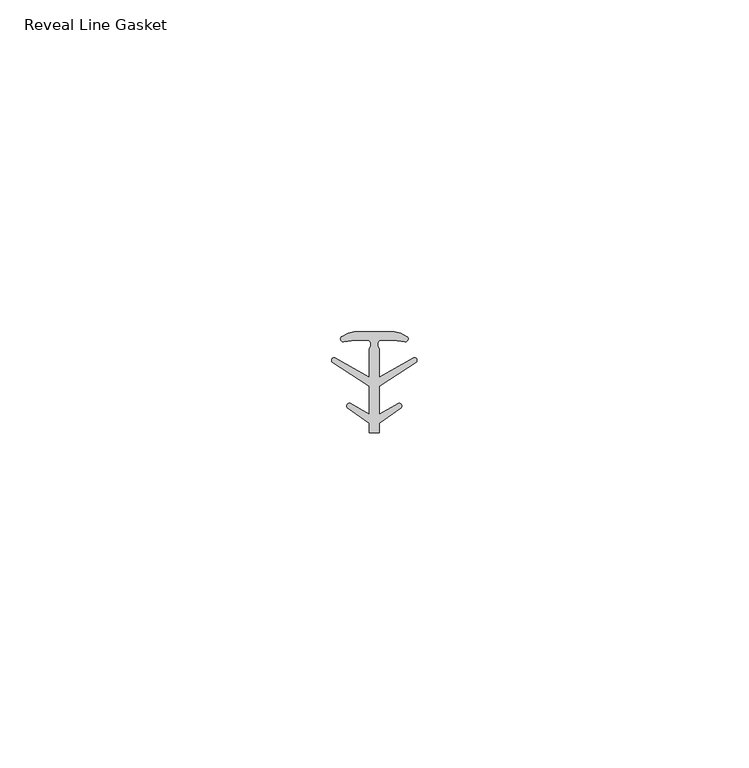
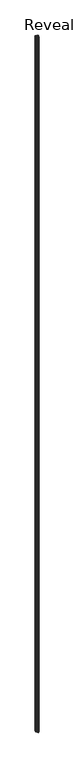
"""IFC4 building model written with IfcOpenShell, lengths in millimetres: proxy geometry, Accessories-Teknion-FHGR-AI_Healthcare-Reveal_Line_Gasket-R2021 : Reveal Line Gasket."""

import ifcopenshell
import ifcopenshell.guid

model = None  # the IFC model being written
_history = None  # IfcOwnerHistory: only IFC2X3 demands one
_inside = {}  # id of a spatial element -> (the spatial element, [elements in it])
_under = {}  # id of a project, library or spatial element -> (it, [spatial elements below it])
_declared = {}  # id of a project -> (the project, [libraries it declares])
_typed = {}  # id of a type object -> (the type object, [elements of that type])
_made_of = {}  # id of a material, layer set ... -> (it, [elements and type objects made of it])


def new_model(schema):
    """Start an empty IFC model of exactly this schema.

    Asked for "IFC4X3", IfcOpenShell would pick the latest addendum, in which some entities
    have other attributes; the version numbers below select the first issue.
    IFC2X3 requires an IfcOwnerHistory on every rooted entity: one is made here for all.
    """
    global model, _history
    if schema == "IFC4X3":
        model = ifcopenshell.file(schema_version=(4, 3, 0, 0))
    else:
        model = ifcopenshell.file(schema=schema)
    _inside.clear()
    _under.clear()
    _declared.clear()
    _typed.clear()
    _made_of.clear()
    _history = None
    if model.schema == "IFC2X3":
        org = make("IfcOrganization", Name="unknown")
        user = make(
            "IfcPersonAndOrganization",
            ThePerson=make("IfcPerson", FamilyName="unknown"),
            TheOrganization=org,
        )
        app = make(
            "IfcApplication",
            ApplicationDeveloper=org,
            Version="unknown",
            ApplicationFullName="unknown",
            ApplicationIdentifier="unknown",
        )
        _history = make(
            "IfcOwnerHistory",
            OwningUser=user,
            OwningApplication=app,
            ChangeAction="ADDED",
            CreationDate=0,
        )
    return model


def make(cls, **values):
    """One entity of the class cls with the attributes given. An attribute that is None is left unset."""
    return model.create_entity(
        cls, **{name: value for name, value in values.items() if value is not None}
    )


def rooted(cls, **values):
    """An entity with a GlobalId (a new one), such as an element, a storey or a relation."""
    return make(cls, GlobalId=ifcopenshell.guid.new(), OwnerHistory=_history, **values)


def si_unit(unit_type, name, prefix=None):
    """IfcSIUnit, for example si_unit("LENGTHUNIT", "METRE", prefix="MILLI")."""
    return make("IfcSIUnit", UnitType=unit_type, Prefix=prefix, Name=name)


def assignment(units):
    """IfcUnitAssignment: the units of a project."""
    return None if units is None else make("IfcUnitAssignment", Units=units)


def point(xyz):
    """IfcCartesianPoint."""
    return None if xyz is None else make("IfcCartesianPoint", Coordinates=xyz)


def direction(xyz):
    """IfcDirection."""
    return None if xyz is None else make("IfcDirection", DirectionRatios=xyz)


def frame(location, z_axis=None, x_axis=None):
    """IfcAxis2Placement3D, a coordinate frame: its origin and axes. An axis left out is left unset."""
    return make(
        "IfcAxis2Placement3D",
        Location=point(location),
        Axis=direction(z_axis),
        RefDirection=direction(x_axis),
    )


def frame_2d(location, x_axis=None):
    """IfcAxis2Placement2D, a coordinate frame in the plane: its origin and x axis."""
    return make(
        "IfcAxis2Placement2D", Location=point(location), RefDirection=direction(x_axis)
    )


def origin():
    """The frame at (0, 0, 0) with its axes left unset."""
    return frame((0.0, 0.0, 0.0))


def place(relative_to, where):
    """IfcLocalPlacement: puts the frame where relative to a parent placement (None: the world)."""
    return make(
        "IfcLocalPlacement", PlacementRelTo=relative_to, RelativePlacement=where
    )


def context(
    kind, dimensions, precision=None, world=None, true_north=None, identifier=None
):
    """IfcGeometricRepresentationContext, for example the 3D "Model" context."""
    return make(
        "IfcGeometricRepresentationContext",
        ContextIdentifier=identifier,
        ContextType=kind,
        CoordinateSpaceDimension=dimensions,
        Precision=precision,
        WorldCoordinateSystem=world,
        TrueNorth=true_north,
    )


def project(units=None, contexts=None):
    """IfcProject with its units and contexts."""
    return rooted(
        "IfcProject",
        Name="project",
        RepresentationContexts=contexts,
        UnitsInContext=assignment(units),
    )


def spatial(cls, under=None, at=None, **own):
    """A site, building, storey or space (cls), placed at a placement, below another one or the project."""
    s = rooted(cls, ObjectPlacement=at, **own)
    if under is not None:
        _under.setdefault(under.id(), (under, []))[1].append(s)
    return s


def polyline(points):
    """IfcPolyline through the points."""
    return make("IfcPolyline", Points=[point(p) for p in points])


def circle_curve(where, radius):
    """IfcCircle in the frame where."""
    return make("IfcCircle", Position=where, Radius=radius)


def trimmed(basis, trim1, trim2, sense, master):
    """IfcTrimmedCurve: the piece of a basis curve between two trims."""
    return make(
        "IfcTrimmedCurve",
        BasisCurve=basis,
        Trim1=trim1,
        Trim2=trim2,
        SenseAgreement=sense,
        MasterRepresentation=master,
    )


def segment(curve, same_sense, transition):
    """IfcCompositeCurveSegment."""
    return make(
        "IfcCompositeCurveSegment",
        Transition=transition,
        SameSense=same_sense,
        ParentCurve=curve,
    )


def composite_curve(segments, self_intersect=None):
    """IfcCompositeCurve: segments joined end to end."""
    return make("IfcCompositeCurve", Segments=segments, SelfIntersect=self_intersect)


def outline(outer, holes=None, kind="AREA"):
    """IfcArbitraryClosedProfileDef: a profile drawn as a closed curve; with holes, ...WithVoids."""
    if holes is None:
        return make("IfcArbitraryClosedProfileDef", ProfileType=kind, OuterCurve=outer)
    return make(
        "IfcArbitraryProfileDefWithVoids",
        ProfileType=kind,
        OuterCurve=outer,
        InnerCurves=holes,
    )


def extrude(swept, where, along, depth):
    """IfcExtrudedAreaSolid: the profile swept, set in the frame where, extruded along a direction by depth."""
    return make(
        "IfcExtrudedAreaSolid",
        SweptArea=swept,
        Position=where,
        ExtrudedDirection=direction(along),
        Depth=depth,
    )


def shape(context_of_items, identifier, shape_type, items):
    """IfcShapeRepresentation: the items that make up one representation, for example the "Body"."""
    return make(
        "IfcShapeRepresentation",
        ContextOfItems=context_of_items,
        RepresentationIdentifier=identifier,
        RepresentationType=shape_type,
        Items=items,
    )


def source(mapping_origin, context_of_items, identifier, shape_type, items):
    """IfcRepresentationMap: a shape defined once, which mapped items show again and again."""
    return make(
        "IfcRepresentationMap",
        MappingOrigin=mapping_origin,
        MappedRepresentation=shape(context_of_items, identifier, shape_type, items),
    )


def transform(
    local_origin,
    x_axis=None,
    y_axis=None,
    z_axis=None,
    scale=None,
    scale2=None,
    scale3=None,
    uniform=True,
):
    """IfcCartesianTransformationOperator3D, or its non-uniform kind. x_axis, y_axis, z_axis: its Axis1, 2, 3."""
    if uniform:
        return make(
            "IfcCartesianTransformationOperator3D",
            Axis1=direction(x_axis),
            Axis2=direction(y_axis),
            LocalOrigin=point(local_origin),
            Scale=scale,
            Axis3=direction(z_axis),
        )
    return make(
        "IfcCartesianTransformationOperator3DnonUniform",
        Axis1=direction(x_axis),
        Axis2=direction(y_axis),
        LocalOrigin=point(local_origin),
        Scale=scale,
        Axis3=direction(z_axis),
        Scale2=scale2,
        Scale3=scale3,
    )


def mapped(mapping_source, mapping_target):
    """IfcMappedItem: shows the shape of a source again, moved by a transform."""
    return make(
        "IfcMappedItem", MappingSource=mapping_source, MappingTarget=mapping_target
    )


def made_of(thing, what):
    """Note that an element or type object is made of a material, layer set ...; save() writes the relation."""
    if what is not None:
        _made_of.setdefault(what.id(), (what, []))[1].append(thing)
    return thing


def element(
    cls,
    number,
    at=None,
    inside=None,
    cuts=None,
    type_object=None,
    material=None,
    context=None,
    identifier="Body",
    shape_type=None,
    held_by="IfcProductDefinitionShape",
    body=None,
    shapes=None,
    **own,
):
    """One element of the class cls, such as IfcWall. Its Tag is "e" and its number.

    at: its placement. inside: the storey or other place that contains it. cuts: it is an
    opening in that element (IfcRelVoidsElement). A single representation is given by context,
    identifier, shape_type and body (its items); several are given by shapes. held_by: the class
    of the entity that holds the representations. save() writes the other relations.
    """
    e = rooted(cls, Tag="e%d" % number, ObjectPlacement=at, **own)
    if body is not None:
        shapes = [shape(context, identifier, shape_type, body)]
    if shapes is not None:
        e.Representation = make(held_by, Representations=shapes)
    if inside is not None:
        _inside.setdefault(inside.id(), (inside, []))[1].append(e)
    if cuts is not None:
        rooted(
            "IfcRelVoidsElement", RelatingBuildingElement=cuts, RelatedOpeningElement=e
        )
    if type_object is not None:
        _typed.setdefault(type_object.id(), (type_object, []))[1].append(e)
    return made_of(e, material)


def aggregate(whole, parts):
    """IfcRelAggregates: a whole, such as a stair, and the parts it consists of."""
    return rooted("IfcRelAggregates", RelatingObject=whole, RelatedObjects=parts)


def save(model, path):
    """Write the relations noted so far, then the file.

    IfcRelAggregates (storeys below a building ...), IfcRelContainedInSpatialStructure (elements
    in a storey), IfcRelDefinesByType, IfcRelAssociatesMaterial and IfcRelDeclares: one each for
    every whole, place, type object, material and project.
    """
    for whole, parts in _under.values():
        aggregate(whole, parts)
    for where, things in _inside.values():
        rooted(
            "IfcRelContainedInSpatialStructure",
            RelatedElements=things,
            RelatingStructure=where,
        )
    for kind, things in _typed.values():
        rooted("IfcRelDefinesByType", RelatedObjects=things, RelatingType=kind)
    for what, things in _made_of.values():
        rooted("IfcRelAssociatesMaterial", RelatedObjects=things, RelatingMaterial=what)
    for by, libraries in _declared.values():
        rooted("IfcRelDeclares", RelatingContext=by, RelatedDefinitions=libraries)
    model.write(path)


def reveal_line_gasket_e38ac148(model_context):
    return source(origin(), model_context, "Body", "SweptSolid", [
        extrude(outline(composite_curve([segment(polyline([(2.999107, 7.6326998), (3.9545998, 7.4091917), (4.8875754, 6.8813059)]), True, "CONTINUOUS"), segment(trimmed(circle_curve(frame_2d((4.6855864, 6.5243141)), 0.4101739), [point((4.8875754, 6.8813059))], [point((4.5932418, 6.1246704))], False, "CARTESIAN"), True, "CONTINUOUS"), segment(polyline([(4.5932418, 6.1246704), (2.8970156, 6.3626997), (0.8645598, 6.3626997)]), True, "CONTINUOUS"), segment(trimmed(circle_curve(frame_2d((1.2810328, 5.6959605)), 0.786124), [point((0.8645598, 6.3626997))], [point((0.7769821, 5.0926996))], True, "CARTESIAN"), True, "CONTINUOUS"), segment(polyline([(0.7769821, 5.0926996), (0.7769821, 0.7492996), (5.9386365, 3.7293824)]), True, "CONTINUOUS"), segment(trimmed(circle_curve(frame_2d((6.0040832, 3.3132479)), 0.4212495), [point((5.9386365, 3.7293824))], [point((6.3317429, 3.0485022))], False, "CARTESIAN"), True, "CONTINUOUS"), segment(polyline([(6.3317429, 3.0485022), (0.7769821, -0.5742594), (0.7769821, -4.8262978), (3.6526367, -3.1660374)]), True, "CONTINUOUS"), segment(trimmed(circle_curve(frame_2d((3.7109925, -3.5978728)), 0.4357605), [point((3.6526367, -3.1660374))], [point((4.0557951, -3.864328))], False, "CARTESIAN"), True, "CONTINUOUS"), segment(polyline([(4.0557951, -3.864328), (0.7769821, -6.1944059), (0.7769821, -7.6326998), (-0.778768, -7.6326998), (-0.778768, -6.1944059), (-4.0575811, -3.864328)]), True, "CONTINUOUS"), segment(trimmed(circle_curve(frame_2d((-3.7127785, -3.5978728)), 0.4357605), [point((-4.0575811, -3.864328))], [point((-3.6544226, -3.1660374))], False, "CARTESIAN"), True, "CONTINUOUS"), segment(polyline([(-3.6544226, -3.1660374), (-0.778768, -4.8262978), (-0.778768, -0.5742594), (-6.3335288, 3.0485022)]), True, "CONTINUOUS"), segment(trimmed(circle_curve(frame_2d((-6.0058691, 3.3132479)), 0.4212495), [point((-6.3335288, 3.0485022))], [point((-5.9404224, 3.7293824))], False, "CARTESIAN"), True, "CONTINUOUS"), segment(polyline([(-5.9404224, 3.7293824), (-0.778768, 0.7492996), (-0.778768, 5.0926996)]), True, "CONTINUOUS"), segment(trimmed(circle_curve(frame_2d((-1.2828188, 5.6959605)), 0.786124), [point((-0.778768, 5.0926996))], [point((-0.8663457, 6.3626997))], True, "CARTESIAN"), True, "CONTINUOUS"), segment(polyline([(-0.8663457, 6.3626997), (-2.8988015, 6.3626997), (-4.5950277, 6.1246704)]), True, "CONTINUOUS"), segment(trimmed(circle_curve(frame_2d((-4.6873723, 6.5243141)), 0.4101739), [point((-4.5950277, 6.1246704))], [point((-4.8893614, 6.8813059))], False, "CARTESIAN"), True, "CONTINUOUS"), segment(polyline([(-4.8893614, 6.8813059), (-3.9563857, 7.4091917), (-3.000893, 7.6326998), (2.999107, 7.6326998)]), True, "CONTINUOUS")], self_intersect=False)), frame((0.0, 0.0, 84.836), z_axis=(0.0, 0.0, 1.0), x_axis=(1.0, 0.0, 0.0)), (0.0, 0.0, 1.0), 2953.6568841),
    ])


if __name__ == "__main__":
    model = new_model("IFC4")
    model_context = context("Model", 3, world=origin())
    ifc_project = project(units=[si_unit("LENGTHUNIT", "METRE", prefix="MILLI")], contexts=[model_context])
    site = spatial("IfcSite", under=ifc_project)
    building = spatial("IfcBuilding", under=site)
    placement = place(None, origin())
    reveal_line_gasket_shape = reveal_line_gasket_e38ac148(model_context)
    element("IfcBuildingElementProxy", 1, Name="Accessories-Teknion-FHGR-AI_Healthcare-Reveal_Line_Gasket-R2021 : Reveal Line Gasket", ObjectType="Accessories-Teknion-FHGR-AI_Healthcare-Reveal_Line_Gasket-R2021 : Reveal Line Gasket", at=placement, inside=building, context=model_context, shape_type="MappedRepresentation", body=[
        mapped(reveal_line_gasket_shape, transform((0.0, 0.0, 0.0), x_axis=(1.0, 0.0, 0.0), y_axis=(0.0, 1.0, 0.0), z_axis=(0.0, 0.0, 1.0))),
    ])
    save(model, "model.ifc")
